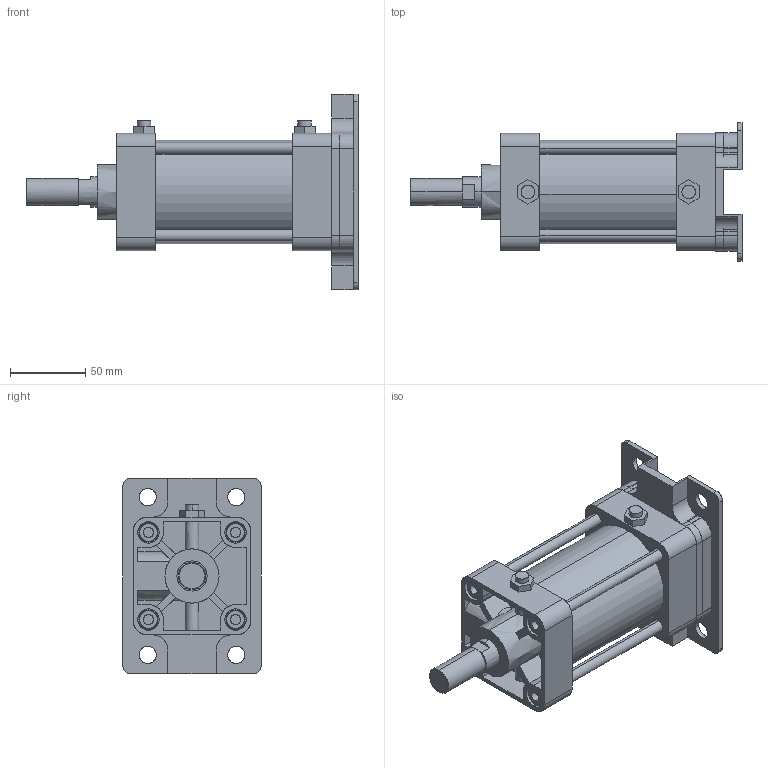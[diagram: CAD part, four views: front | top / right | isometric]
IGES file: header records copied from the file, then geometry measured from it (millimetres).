
Start section: SolidWorks IGES file using analytic representation for surfaces
Global section: file name: C:\Users\Toshiba\Desktop\KG2-63-50-B.IGS; native system: SolidWorks 2014; preprocessor: SolidWorks 2014; author: Toshiba; date: 160401.161448; units: millimetre
Bounding box: 221 x 92 x 130 mm (x, y, z)
Surface area: 151697.8 mm2 (no closed solid volume)
Topology: 0 solids, 0 shells, 383 faces, 6182 edges, 6178 vertices
Faces by surface type: bspline 199, revolution 184
